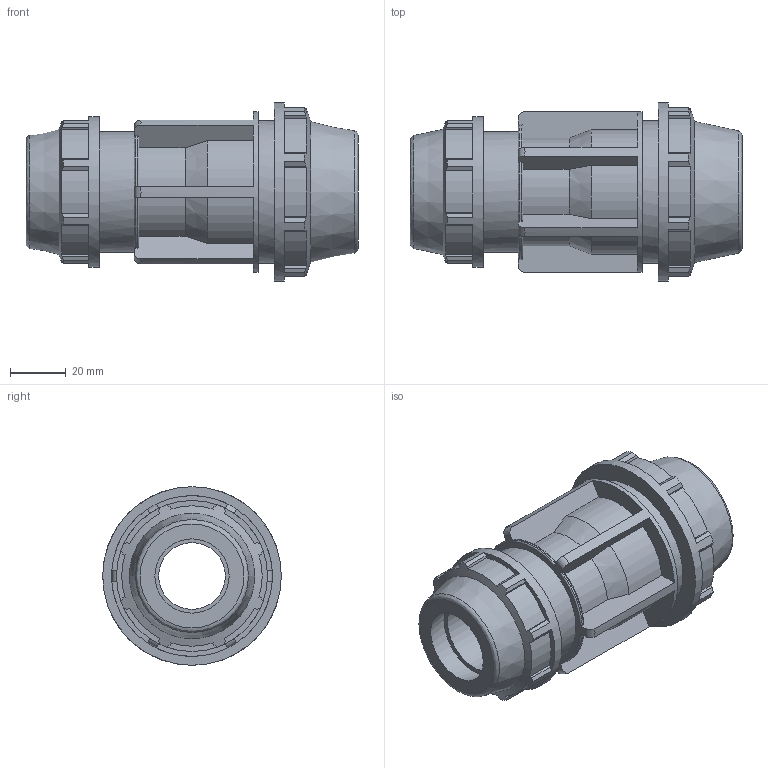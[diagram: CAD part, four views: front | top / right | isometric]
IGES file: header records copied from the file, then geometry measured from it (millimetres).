
Global section: file name: 0711M0010007.ipt; native system: Autodesk Inventor 2019; preprocessor: unknown; author: KIM; date: 20210826.124656; units: inch
Bounding box: 119 x 64.01 x 64.01 mm (x, y, z)
Volume: 130537.7 mm3; surface area: 41051 mm2
Topology: 1 solids, 1 shells, 189 faces, 553 edges, 374 vertices
Faces by surface type: plane 114, cylinder 45, revolution 20, cone 10
Full cylindrical faces by diameter (mm): 43.282 x1, 51.206 x1, 54.102 x1, 57.607 x1, 64.008 x1
